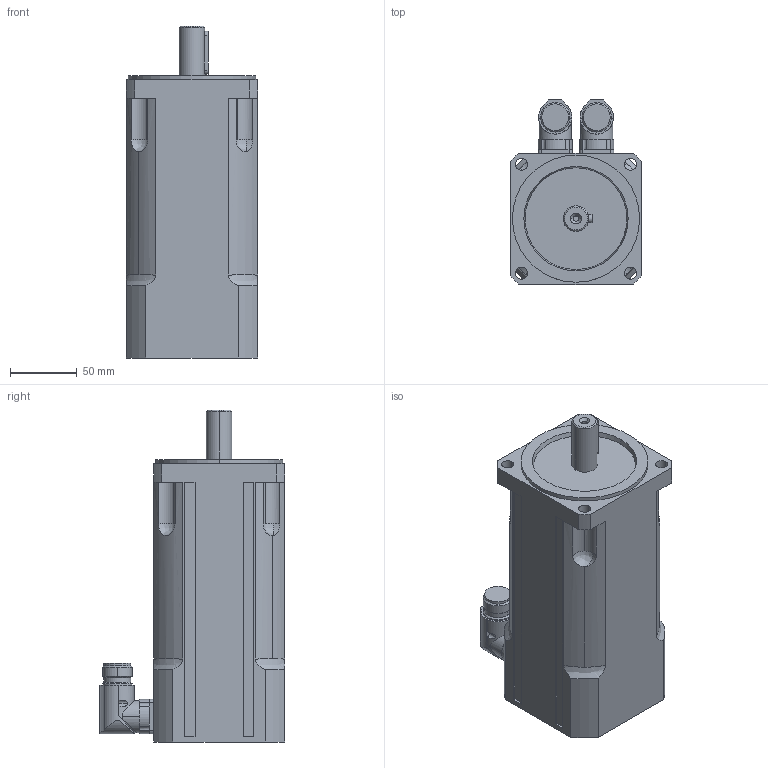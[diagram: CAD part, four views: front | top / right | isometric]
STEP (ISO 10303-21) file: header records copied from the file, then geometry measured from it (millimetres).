
FILE_DESCRIPTION(('STEP AP203'),'2;1');
FILE_NAME('MT4-0530_B.stp','2006-08-28T20:11:35',(''),(''),'2005.2.102','THINKDESIGN','');
FILE_SCHEMA(('CONFIG_CONTROL_DESIGN'));
Length unit declared in the file: millimetre
Bounding box: 98 x 138.5 x 248 mm (x, y, z)
Volume: 1908669.7 mm3; surface area: 121450.7 mm2
Topology: 3 solids, 3 shells, 249 faces, 647 edges, 418 vertices
Faces by surface type: cylinder 112, plane 77, bspline 60
Entity records: 9416 total; most frequent: CARTESIAN_POINT 3278, ORIENTED_EDGE 1294, DIRECTION 1249, EDGE_CURVE 647, AXIS2_PLACEMENT_3D 483, VERTEX_POINT 418, CIRCLE 294, EDGE_LOOP 287
